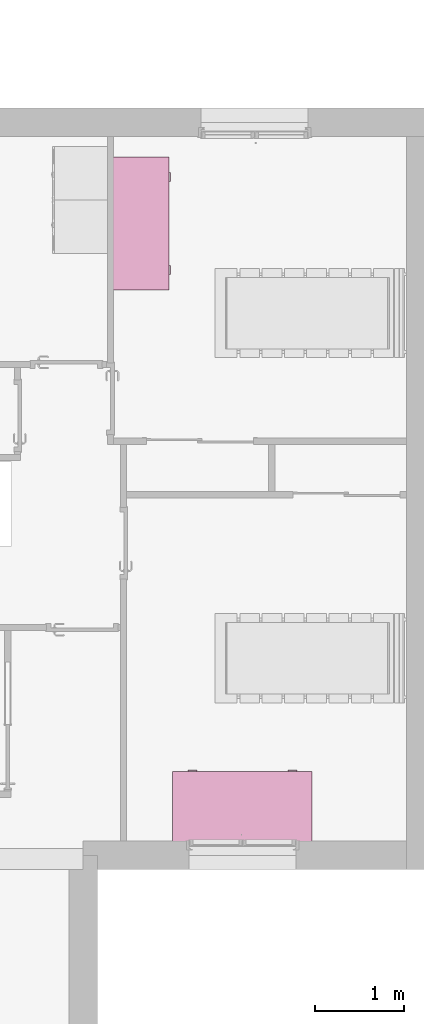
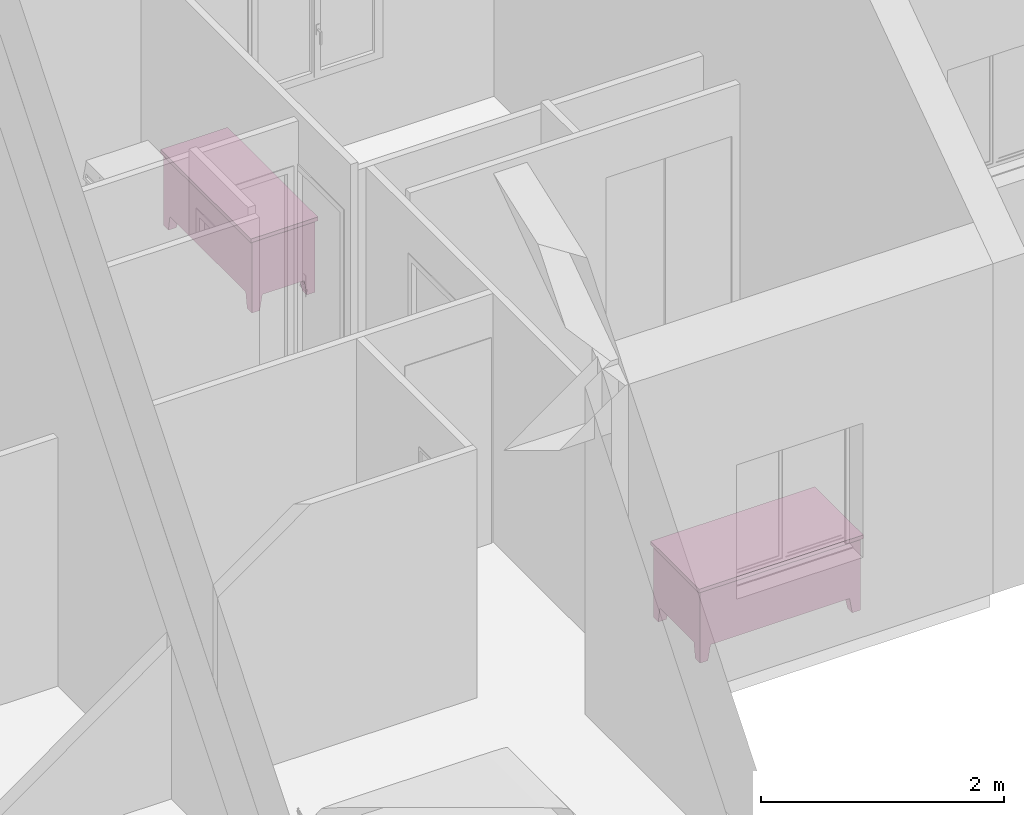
# One storey, part 61 of 61: 2 furnishings.
"""IFC2X3 building model written with IfcOpenShell, lengths in metres."""

from ifc_helpers import new_model, entity, si_unit, converted_unit, derived_unit, direction, frame, origin, place, context, subcontext, project, spatial, faceted_brep, source, transform, mapped, material, material_list, type_object, type_shapes, element, save


model = new_model("IFC2X3")

# Units and contexts
model_context = context("Model", 3, precision=1e-05, world=origin(), true_north=direction((6.12303176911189e-17, 1.0)))
body_context = subcontext(model_context, "Body", "Model", "MODEL_VIEW")
ifc_project = project(units=[si_unit("LENGTHUNIT", "METRE"), si_unit("AREAUNIT", "SQUARE_METRE"), si_unit("VOLUMEUNIT", "CUBIC_METRE"), converted_unit("PLANEANGLEUNIT", "DEGREE", entity("IfcRatioMeasure", 0.0174532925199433), si_unit("PLANEANGLEUNIT", "RADIAN"), dimensions=[0, 0, 0, 0, 0, 0, 0]), si_unit("MASSUNIT", "GRAM", prefix="KILO"), derived_unit("MASSDENSITYUNIT", [(si_unit("MASSUNIT", "GRAM", prefix="KILO"), 1), (si_unit("LENGTHUNIT", "METRE"), -3)]), si_unit("TIMEUNIT", "SECOND"), si_unit("FREQUENCYUNIT", "HERTZ"), si_unit("THERMODYNAMICTEMPERATUREUNIT", "DEGREE_CELSIUS"), derived_unit("THERMALTRANSMITTANCEUNIT", [(si_unit("MASSUNIT", "GRAM", prefix="KILO"), 1), (si_unit("THERMODYNAMICTEMPERATUREUNIT", "KELVIN"), -1), (si_unit("TIMEUNIT", "SECOND"), -3)]), derived_unit("VOLUMETRICFLOWRATEUNIT", [(si_unit("LENGTHUNIT", "METRE"), 3), (si_unit("TIMEUNIT", "SECOND"), -1)]), si_unit("ELECTRICCURRENTUNIT", "AMPERE"), si_unit("ELECTRICVOLTAGEUNIT", "VOLT"), si_unit("POWERUNIT", "WATT"), si_unit("FORCEUNIT", "NEWTON", prefix="KILO"), si_unit("ILLUMINANCEUNIT", "LUX"), si_unit("LUMINOUSFLUXUNIT", "LUMEN"), si_unit("LUMINOUSINTENSITYUNIT", "CANDELA"), derived_unit("USERDEFINED", [(si_unit("MASSUNIT", "GRAM", prefix="KILO"), -1), (si_unit("LENGTHUNIT", "METRE"), -2), (si_unit("TIMEUNIT", "SECOND"), 3), (si_unit("LUMINOUSFLUXUNIT", "LUMEN"), 1)]), derived_unit("LINEARVELOCITYUNIT", [(si_unit("LENGTHUNIT", "METRE"), 1), (si_unit("TIMEUNIT", "SECOND"), -1)]), si_unit("PRESSUREUNIT", "PASCAL"), derived_unit("USERDEFINED", [(si_unit("LENGTHUNIT", "METRE"), -2), (si_unit("MASSUNIT", "GRAM", prefix="KILO"), 1), (si_unit("TIMEUNIT", "SECOND"), -2)])], contexts=[model_context])

# Site, building, storey
site_placement = place(None, origin())
site = spatial("IfcSite", under=ifc_project, at=site_placement, Name="Surface", CompositionType="ELEMENT")
building_placement = place(site_placement, origin())
building = spatial("IfcBuilding", under=site, at=building_placement, CompositionType="ELEMENT")
storey_placement = place(building_placement, frame((0.0, 0.0, 2.82)))
storey = spatial("IfcBuildingStorey", under=building, at=storey_placement, Name="ETAGE", CompositionType="ELEMENT", Elevation=2.82)

# Furnishings
ifc_material_1 = material(Name="Bois - Mélaminé ivoire")
ifc_material_2 = material(Name="Métal - Chrome")
ifc_material_3 = material(Name="Bois - Cerisier")
ifc_material_list_1 = material_list([ifc_material_1, ifc_material_2, ifc_material_3])
ifc_material_list_2 = material_list([ifc_material_1, ifc_material_2, ifc_material_3])
furniture_type_1 = type_object("IfcFurnitureType", Name="1525 mm x 762 mm", material=ifc_material_list_2)
shared_shape_1 = source(origin(), body_context, "Body", "Brep", [
    faceted_brep([(1.13765, 0.761999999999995, 0.70485), (1.13765, 0.761999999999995, 0.60325), (1.50595, 0.761999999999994, 0.60325), (1.50595, 0.761999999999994, 0.70485), (1.13765, 0.774699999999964, 0.70485), (1.13765, 0.774699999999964, 0.60325), (1.50595, 0.774699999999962, 0.60325), (1.50595, 0.774699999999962, 0.70485)], [[[0, 1, 2, 3]], [[1, 0, 4, 5]], [[2, 1, 5, 6]], [[3, 2, 6, 7]], [[0, 3, 7, 4]], [[4, 7, 6, 5]]]),
    faceted_brep([(1.50595, 0.774699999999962, 0.5842), (1.50595, 0.774699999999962, 0.17105), (1.13765, 0.774699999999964, 0.17105), (1.13765, 0.774699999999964, 0.5842), (1.13765, 0.761999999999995, 0.5842), (1.50595, 0.761999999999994, 0.5842), (1.13765, 0.761999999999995, 0.17105), (1.50595, 0.761999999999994, 0.17105)], [[[0, 1, 2, 3]], [[4, 5, 0, 3]], [[6, 4, 3, 2]], [[7, 6, 2, 1]], [[5, 7, 1, 0]], [[5, 4, 6, 7]]]),
    faceted_brep([(0.38735, 0.761999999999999, 0.70485), (0.01905, 0.761999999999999, 0.70485), (0.01905, 0.761999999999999, 0.60285), (0.38735, 0.761999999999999, 0.60285), (0.38735, 0.774700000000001, 0.70485), (0.01905, 0.774700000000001, 0.70485), (0.01905, 0.774700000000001, 0.60285), (0.38735, 0.774700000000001, 0.60285)], [[[0, 1, 2, 3]], [[1, 0, 4, 5]], [[2, 1, 5, 6]], [[3, 2, 6, 7]], [[0, 3, 7, 4]], [[4, 7, 6, 5]]]),
    faceted_brep([(0.01905, 0.774700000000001, 0.5838), (0.38735, 0.774700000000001, 0.5838), (0.38735, 0.774700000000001, 0.4822), (0.01905, 0.774700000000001, 0.4822), (0.01905, 0.761999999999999, 0.4822), (0.01905, 0.761999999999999, 0.5838), (0.38735, 0.761999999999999, 0.4822), (0.38735, 0.761999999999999, 0.5838)], [[[0, 1, 2, 3]], [[4, 5, 0, 3]], [[6, 4, 3, 2]], [[7, 6, 2, 1]], [[5, 7, 1, 0]], [[5, 4, 6, 7]]]),
    faceted_brep([(0.01905, 0.761999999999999, 0.17105), (0.01905, 0.761999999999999, 0.3425), (0.01905, 0.774700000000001, 0.3425), (0.01905, 0.774700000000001, 0.17105), (0.38735, 0.761999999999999, 0.17105), (0.38735, 0.774700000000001, 0.17105), (0.38735, 0.761999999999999, 0.3425), (0.38735, 0.774700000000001, 0.3425)], [[[0, 1, 2, 3]], [[4, 0, 3, 5]], [[6, 4, 5, 7]], [[1, 6, 7, 2]], [[2, 7, 5, 3]], [[1, 0, 4, 6]]]),
    faceted_brep([(0.01905, 0.761999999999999, 0.36155), (0.01905, 0.761999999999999, 0.46315), (0.01905, 0.774700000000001, 0.46315), (0.01905, 0.774700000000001, 0.36155), (0.38735, 0.761999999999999, 0.36155), (0.38735, 0.774700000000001, 0.36155), (0.38735, 0.761999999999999, 0.46315), (0.38735, 0.774700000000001, 0.46315)], [[[0, 1, 2, 3]], [[4, 0, 3, 5]], [[6, 4, 5, 7]], [[1, 6, 7, 2]], [[2, 7, 5, 3]], [[1, 0, 4, 6]]]),
    faceted_brep([(1.42339999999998, 0.761999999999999, 0.152), (1.42339999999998, 0.660399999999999, 0.152), (1.52499999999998, 0.660399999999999, 0.152), (1.52499999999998, 0.761999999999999, 0.152), (1.44879999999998, 0.762, 0.0), (1.52499999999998, 0.762, 0.0), (1.52499999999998, 0.6858, 0.0), (1.44879999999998, 0.6858, 0.0)], [[[0, 1, 2, 3]], [[4, 5, 6, 7]], [[4, 7, 1, 0]], [[7, 6, 2, 1]], [[6, 5, 3, 2]], [[5, 4, 0, 3]]]),
    faceted_brep([(1.4234, 0.0, 0.152), (1.525, 0.0, 0.152), (1.525, 0.1016, 0.152), (1.4234, 0.1016, 0.152), (1.4488, 0.0, 0.0), (1.4488, 0.0761999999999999, 0.0), (1.525, 0.0761999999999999, 0.0), (1.525, 0.0, 0.0)], [[[0, 1, 2, 3]], [[4, 5, 6, 7]], [[4, 7, 1, 0]], [[7, 6, 2, 1]], [[6, 5, 3, 2]], [[5, 4, 0, 3]]]),
    faceted_brep([(0.1016, 0.0, 0.152), (0.1016, 0.1016, 0.152), (0.0, 0.1016, 0.152), (0.0, 0.0, 0.152), (0.0762, 0.0, 0.0), (0.0, 0.0, 0.0), (0.0, 0.0761999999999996, 0.0), (0.0762, 0.0761999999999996, 0.0)], [[[0, 1, 2, 3]], [[4, 5, 6, 7]], [[4, 7, 1, 0]], [[7, 6, 2, 1]], [[6, 5, 3, 2]], [[5, 4, 0, 3]]]),
    faceted_brep([(0.1016, 0.762000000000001, 0.152), (0.0, 0.762000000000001, 0.152), (0.0, 0.660400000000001, 0.152), (0.1016, 0.660400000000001, 0.152), (0.0761999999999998, 0.762000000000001, 0.0), (0.0761999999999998, 0.685800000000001, 0.0), (0.0, 0.685800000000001, 0.0), (0.0, 0.762000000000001, 0.0)], [[[0, 1, 2, 3]], [[4, 5, 6, 7]], [[4, 7, 1, 0]], [[7, 6, 2, 1]], [[6, 5, 3, 2]], [[5, 4, 0, 3]]]),
    faceted_brep([(0.4064, 0.761999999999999, 0.723900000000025), (0.0, 0.761999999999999, 0.723900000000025), (0.0, 0.0, 0.723900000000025), (1.525, 0.0, 0.723900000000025), (1.525, 0.761999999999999, 0.723900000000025), (1.11860000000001, 0.761999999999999, 0.723900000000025), (1.11860000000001, 0.0508000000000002, 0.723900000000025), (0.4064, 0.0508000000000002, 0.723900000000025), (0.4064, 0.761999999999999, 0.152), (0.4064, 0.0508000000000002, 0.152), (1.11860000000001, 0.0508000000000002, 0.152), (1.11860000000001, 0.761999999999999, 0.152), (1.525, 0.761999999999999, 0.152), (1.525, 0.0, 0.152), (0.0, 0.0, 0.152), (0.0, 0.761999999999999, 0.152)], [[[0, 1, 2, 3, 4, 5, 6, 7]], [[8, 9, 10, 11, 12, 13, 14, 15]], [[1, 0, 8, 15]], [[2, 1, 15, 14]], [[3, 2, 14, 13]], [[4, 3, 13, 12]], [[5, 4, 12, 11]], [[6, 5, 11, 10]], [[7, 6, 10, 9]], [[0, 7, 9, 8]]]),
    faceted_brep([(1.54405000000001, 0.781049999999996, 0.761999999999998), (-0.0190499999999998, 0.781049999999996, 0.761999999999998), (-0.0190499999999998, -0.0190500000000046, 0.761999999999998), (1.54405000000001, -0.0190500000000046, 0.761999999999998), (1.54405000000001, 0.781049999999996, 0.723900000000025), (1.54405000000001, -0.0190500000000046, 0.723900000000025), (-0.0190499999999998, -0.0190500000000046, 0.723900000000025), (-0.0190499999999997, 0.781049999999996, 0.723900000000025)], [[[0, 1, 2, 3]], [[4, 5, 6, 7]], [[1, 0, 4, 7]], [[2, 1, 7, 6]], [[3, 2, 6, 5]], [[0, 3, 5, 4]]]),
    faceted_brep([(1.36624999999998, 0.774699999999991, 0.546100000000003), (1.36624999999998, 0.774699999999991, 0.533399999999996), (1.37259999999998, 0.774699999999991, 0.533399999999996), (1.37259999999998, 0.774699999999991, 0.546100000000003), (1.36624999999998, 0.793749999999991, 0.546100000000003), (1.36624999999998, 0.793749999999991, 0.533399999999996), (1.37259999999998, 0.80009999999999, 0.533399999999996), (1.37259999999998, 0.80009999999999, 0.546100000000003), (1.27734999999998, 0.793749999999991, 0.546100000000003), (1.27734999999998, 0.793749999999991, 0.533399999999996), (1.27099999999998, 0.80009999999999, 0.533399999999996), (1.27099999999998, 0.80009999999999, 0.546100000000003), (1.27734999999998, 0.774699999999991, 0.546100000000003), (1.27734999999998, 0.774699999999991, 0.533399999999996), (1.27099999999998, 0.774699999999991, 0.533399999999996), (1.27099999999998, 0.774699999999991, 0.546100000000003)], [[[0, 1, 2, 3]], [[1, 0, 4, 5]], [[2, 1, 5, 6]], [[3, 2, 6, 7]], [[0, 3, 7, 4]], [[5, 4, 8, 9]], [[6, 5, 9, 10]], [[7, 6, 10, 11]], [[4, 7, 11, 8]], [[9, 8, 12, 13]], [[10, 9, 13, 14]], [[11, 10, 14, 15]], [[8, 11, 15, 12]], [[12, 15, 14, 13]]]),
    faceted_brep([(1.36624999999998, 0.774699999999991, 0.654050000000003), (1.36624999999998, 0.774699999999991, 0.666750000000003), (1.36624999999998, 0.79374999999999, 0.666750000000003), (1.36624999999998, 0.79374999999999, 0.654050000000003), (1.37259999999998, 0.774699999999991, 0.654050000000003), (1.37259999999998, 0.800099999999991, 0.654050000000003), (1.37259999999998, 0.774699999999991, 0.666750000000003), (1.37259999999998, 0.800099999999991, 0.666750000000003), (1.27734999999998, 0.79374999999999, 0.666750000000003), (1.27734999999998, 0.79374999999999, 0.654050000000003), (1.27099999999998, 0.800099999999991, 0.654050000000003), (1.27099999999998, 0.800099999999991, 0.666750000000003), (1.27734999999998, 0.774699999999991, 0.666750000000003), (1.27099999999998, 0.774699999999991, 0.666750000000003), (1.27099999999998, 0.774699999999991, 0.654050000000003), (1.27734999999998, 0.774699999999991, 0.654050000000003)], [[[0, 1, 2, 3]], [[4, 0, 3, 5]], [[6, 4, 5, 7]], [[1, 6, 7, 2]], [[3, 2, 8, 9]], [[5, 3, 9, 10]], [[7, 5, 10, 11]], [[2, 7, 11, 8]], [[12, 13, 14, 15]], [[9, 8, 12, 15]], [[10, 9, 15, 14]], [[11, 10, 14, 13]], [[8, 11, 13, 12]], [[1, 0, 4, 6]]]),
    faceted_brep([(0.15875, 0.774699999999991, 0.3048), (0.1524, 0.774699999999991, 0.3048), (0.1524, 0.774699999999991, 0.2921), (0.15875, 0.774699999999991, 0.2921), (0.15875, 0.793749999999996, 0.3048), (0.1524, 0.800099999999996, 0.3048), (0.1524, 0.800099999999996, 0.2921), (0.15875, 0.793749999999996, 0.2921), (0.24765, 0.793749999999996, 0.3048), (0.254, 0.800099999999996, 0.3048), (0.254, 0.800099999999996, 0.2921), (0.24765, 0.793749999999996, 0.2921), (0.24765, 0.774699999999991, 0.3048), (0.254, 0.774699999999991, 0.3048), (0.254, 0.774699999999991, 0.2921), (0.24765, 0.774699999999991, 0.2921)], [[[0, 1, 2, 3]], [[1, 0, 4, 5]], [[2, 1, 5, 6]], [[3, 2, 6, 7]], [[0, 3, 7, 4]], [[5, 4, 8, 9]], [[6, 5, 9, 10]], [[7, 6, 10, 11]], [[4, 7, 11, 8]], [[9, 8, 12, 13]], [[10, 9, 13, 14]], [[11, 10, 14, 15]], [[8, 11, 15, 12]], [[12, 15, 14, 13]]]),
    faceted_brep([(0.1524, 0.774699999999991, 0.425450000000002), (0.15875, 0.774699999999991, 0.425450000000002), (0.15875, 0.793749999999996, 0.425450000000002), (0.1524, 0.800099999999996, 0.425450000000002), (0.1524, 0.774699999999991, 0.412750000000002), (0.1524, 0.800099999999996, 0.412750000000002), (0.15875, 0.774699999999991, 0.412750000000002), (0.15875, 0.793749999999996, 0.412750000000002), (0.24765, 0.793749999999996, 0.425450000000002), (0.254, 0.800099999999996, 0.425450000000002), (0.254, 0.800099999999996, 0.412750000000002), (0.24765, 0.793749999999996, 0.412750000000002), (0.24765, 0.774699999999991, 0.425450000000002), (0.254, 0.774699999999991, 0.425450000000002), (0.254, 0.774699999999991, 0.412750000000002), (0.24765, 0.774699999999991, 0.412750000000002)], [[[0, 1, 2, 3]], [[4, 0, 3, 5]], [[6, 4, 5, 7]], [[1, 6, 7, 2]], [[3, 2, 8, 9]], [[5, 3, 9, 10]], [[7, 5, 10, 11]], [[2, 7, 11, 8]], [[9, 8, 12, 13]], [[10, 9, 13, 14]], [[11, 10, 14, 15]], [[8, 11, 15, 12]], [[12, 15, 14, 13]], [[1, 0, 4, 6]]]),
    faceted_brep([(0.1524, 0.774699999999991, 0.5461), (0.15875, 0.774699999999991, 0.5461), (0.15875, 0.793749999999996, 0.5461), (0.1524, 0.800099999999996, 0.5461), (0.1524, 0.774699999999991, 0.5334), (0.1524, 0.800099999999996, 0.5334), (0.15875, 0.774699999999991, 0.5334), (0.15875, 0.793749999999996, 0.5334), (0.24765, 0.793749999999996, 0.5461), (0.254, 0.800099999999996, 0.5461), (0.254, 0.800099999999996, 0.5334), (0.24765, 0.793749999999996, 0.5334), (0.24765, 0.774699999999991, 0.5461), (0.254, 0.774699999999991, 0.5461), (0.254, 0.774699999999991, 0.5334), (0.24765, 0.774699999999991, 0.5334)], [[[0, 1, 2, 3]], [[4, 0, 3, 5]], [[6, 4, 5, 7]], [[1, 6, 7, 2]], [[3, 2, 8, 9]], [[5, 3, 9, 10]], [[7, 5, 10, 11]], [[2, 7, 11, 8]], [[9, 8, 12, 13]], [[10, 9, 13, 14]], [[11, 10, 14, 15]], [[8, 11, 15, 12]], [[12, 15, 14, 13]], [[1, 0, 4, 6]]]),
    faceted_brep([(0.1524, 0.774699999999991, 0.666750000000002), (0.15875, 0.774699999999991, 0.666750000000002), (0.15875, 0.793749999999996, 0.666750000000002), (0.1524, 0.800099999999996, 0.666750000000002), (0.1524, 0.774699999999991, 0.654050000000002), (0.1524, 0.800099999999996, 0.654050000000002), (0.15875, 0.774699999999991, 0.654050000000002), (0.15875, 0.793749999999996, 0.654050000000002), (0.24765, 0.793749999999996, 0.666750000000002), (0.254, 0.800099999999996, 0.666750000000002), (0.254, 0.800099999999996, 0.654050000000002), (0.24765, 0.793749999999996, 0.654050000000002), (0.24765, 0.774699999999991, 0.666750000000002), (0.24765, 0.774699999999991, 0.654050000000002), (0.254, 0.774699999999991, 0.654050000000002), (0.254, 0.774699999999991, 0.666750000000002)], [[[0, 1, 2, 3]], [[4, 0, 3, 5]], [[6, 4, 5, 7]], [[1, 6, 7, 2]], [[3, 2, 8, 9]], [[5, 3, 9, 10]], [[7, 5, 10, 11]], [[2, 7, 11, 8]], [[12, 13, 14, 15]], [[9, 8, 12, 15]], [[10, 9, 15, 14]], [[11, 10, 14, 13]], [[8, 11, 13, 12]], [[1, 0, 4, 6]]]),
])
type_shapes(furniture_type_1, [shared_shape_1])
furnishing_1_placement = place(storey_placement, frame((73.3596263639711, 80.2077566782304, 0.0199999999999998)))
element("IfcFurnishingElement", 1, at=furnishing_1_placement, inside=storey, type_object=furniture_type_1, material=ifc_material_list_1, Name="Bureau commun:1525 mm x 762 mm", ObjectType="Bureau commun:1525 mm x 762 mm", context=body_context, shape_type="MappedRepresentation", body=[
    mapped(shared_shape_1, transform((0.0, 0.0, 0.0), scale=1.0)),
])
ifc_material_list_3 = material_list([ifc_material_1, ifc_material_2, ifc_material_3])
ifc_material_list_4 = material_list([ifc_material_1, ifc_material_2, ifc_material_3])
furniture_type_2 = type_object("IfcFurnitureType", Name="1525 mm x 600 mm", material=ifc_material_list_4)
shared_shape_2 = source(origin(), body_context, "Body", "Brep", [
    faceted_brep([(1.06265, -0.599999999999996, 0.704850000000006), (1.43095, -0.599999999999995, 0.704850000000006), (1.43095, -0.599999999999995, 0.603250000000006), (1.06265, -0.599999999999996, 0.603250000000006), (1.06265, -0.612699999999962, 0.603250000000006), (1.06265, -0.612699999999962, 0.704850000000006), (1.43095, -0.612699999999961, 0.603250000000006), (1.43095, -0.612699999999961, 0.704850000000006)], [[[0, 1, 2, 3]], [[3, 4, 5, 0]], [[2, 6, 4, 3]], [[1, 7, 6, 2]], [[0, 5, 7, 1]], [[5, 4, 6, 7]]]),
    faceted_brep([(1.43095, -0.612699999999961, 0.584200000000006), (1.06265, -0.612699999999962, 0.584200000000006), (1.06265, -0.612699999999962, 0.17105), (1.43095, -0.612699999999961, 0.17105), (1.06265, -0.599999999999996, 0.584200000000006), (1.43095, -0.599999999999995, 0.584200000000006), (1.06265, -0.599999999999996, 0.17105), (1.43095, -0.599999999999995, 0.17105)], [[[0, 1, 2, 3]], [[4, 1, 0, 5]], [[6, 2, 1, 4]], [[7, 3, 2, 6]], [[5, 0, 3, 7]], [[5, 7, 6, 4]]]),
    faceted_brep([(0.38735, -0.6, 0.70485), (0.38735, -0.6, 0.60285), (0.01905, -0.6, 0.60285), (0.01905, -0.6, 0.70485), (0.01905, -0.612700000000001, 0.70485), (0.38735, -0.612700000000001, 0.70485), (0.01905, -0.612700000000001, 0.60285), (0.38735, -0.612700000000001, 0.60285)], [[[0, 1, 2, 3]], [[3, 4, 5, 0]], [[2, 6, 4, 3]], [[1, 7, 6, 2]], [[0, 5, 7, 1]], [[5, 4, 6, 7]]]),
    faceted_brep([(0.01905, -0.612700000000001, 0.5838), (0.01905, -0.612700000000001, 0.4822), (0.38735, -0.612700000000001, 0.4822), (0.38735, -0.612700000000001, 0.5838), (0.01905, -0.6, 0.4822), (0.01905, -0.6, 0.5838), (0.38735, -0.6, 0.4822), (0.38735, -0.6, 0.5838)], [[[0, 1, 2, 3]], [[4, 1, 0, 5]], [[6, 2, 1, 4]], [[7, 3, 2, 6]], [[5, 0, 3, 7]], [[5, 7, 6, 4]]]),
    faceted_brep([(0.01905, -0.6, 0.17105), (0.01905, -0.612700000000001, 0.17105), (0.01905, -0.612700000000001, 0.3425), (0.01905, -0.6, 0.3425), (0.38735, -0.6, 0.17105), (0.38735, -0.612700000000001, 0.17105), (0.38735, -0.6, 0.3425), (0.38735, -0.612700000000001, 0.3425)], [[[0, 1, 2, 3]], [[4, 5, 1, 0]], [[6, 7, 5, 4]], [[3, 2, 7, 6]], [[2, 1, 5, 7]], [[3, 6, 4, 0]]]),
    faceted_brep([(0.01905, -0.6, 0.36155), (0.01905, -0.612700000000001, 0.36155), (0.01905, -0.612700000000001, 0.46315), (0.01905, -0.6, 0.46315), (0.38735, -0.6, 0.36155), (0.38735, -0.612700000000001, 0.36155), (0.38735, -0.6, 0.46315), (0.38735, -0.612700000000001, 0.46315)], [[[0, 1, 2, 3]], [[4, 5, 1, 0]], [[6, 7, 5, 4]], [[3, 2, 7, 6]], [[2, 1, 5, 7]], [[3, 6, 4, 0]]]),
    faceted_brep([(1.34839999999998, -0.6, 0.152), (1.44999999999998, -0.6, 0.152), (1.44999999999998, -0.498399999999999, 0.152), (1.34839999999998, -0.498399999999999, 0.152), (1.37379999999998, -0.6, 0.0), (1.37379999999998, -0.5238, 0.0), (1.44999999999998, -0.5238, 0.0), (1.44999999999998, -0.6, 0.0)], [[[0, 1, 2, 3]], [[4, 5, 6, 7]], [[4, 0, 3, 5]], [[5, 3, 2, 6]], [[6, 2, 1, 7]], [[7, 1, 0, 4]]]),
    faceted_brep([(1.3484, 0.0, 0.152), (1.3484, -0.1016, 0.152), (1.45, -0.1016, 0.152), (1.45, 0.0, 0.152), (1.3738, 0.0, 0.0), (1.45, 0.0, 0.0), (1.45, -0.0761999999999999, 0.0), (1.3738, -0.0761999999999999, 0.0)], [[[0, 1, 2, 3]], [[4, 5, 6, 7]], [[4, 0, 3, 5]], [[5, 3, 2, 6]], [[6, 2, 1, 7]], [[7, 1, 0, 4]]]),
    faceted_brep([(0.1016, 0.0, 0.152), (0.0, 0.0, 0.152), (0.0, -0.1016, 0.152), (0.1016, -0.1016, 0.152), (0.0762, 0.0, 0.0), (0.0762, -0.0761999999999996, 0.0), (0.0, -0.0761999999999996, 0.0), (0.0, 0.0, 0.0)], [[[0, 1, 2, 3]], [[4, 5, 6, 7]], [[4, 0, 3, 5]], [[5, 3, 2, 6]], [[6, 2, 1, 7]], [[7, 1, 0, 4]]]),
    faceted_brep([(0.1016, -0.600000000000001, 0.152), (0.1016, -0.498400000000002, 0.152), (0.0, -0.498400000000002, 0.152), (0.0, -0.600000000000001, 0.152), (0.0761999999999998, -0.600000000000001, 0.0), (0.0, -0.600000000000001, 0.0), (0.0, -0.523800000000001, 0.0), (0.0761999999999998, -0.523800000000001, 0.0)], [[[0, 1, 2, 3]], [[4, 5, 6, 7]], [[4, 0, 3, 5]], [[5, 3, 2, 6]], [[6, 2, 1, 7]], [[7, 1, 0, 4]]]),
    faceted_brep([(0.4064, -0.6, 0.723900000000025), (0.4064, -0.0508000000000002, 0.723900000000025), (1.04360000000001, -0.0508000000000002, 0.723900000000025), (1.04360000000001, -0.6, 0.723900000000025), (1.45, -0.6, 0.723900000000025), (1.45, 0.0, 0.723900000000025), (0.0, 0.0, 0.723900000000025), (0.0, -0.6, 0.723900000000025), (0.4064, -0.6, 0.152), (0.0, -0.6, 0.152), (0.0, 0.0, 0.152), (1.45, 0.0, 0.152), (1.45, -0.6, 0.152), (1.04360000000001, -0.6, 0.152), (1.04360000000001, -0.0508000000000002, 0.152), (0.4064, -0.0508000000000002, 0.152)], [[[0, 1, 2, 3, 4, 5, 6, 7]], [[8, 9, 10, 11, 12, 13, 14, 15]], [[7, 9, 8, 0]], [[6, 10, 9, 7]], [[5, 11, 10, 6]], [[4, 12, 11, 5]], [[3, 13, 12, 4]], [[2, 14, 13, 3]], [[1, 15, 14, 2]], [[0, 8, 15, 1]]]),
    faceted_brep([(1.46905000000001, -0.619049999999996, 0.761999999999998), (1.46905000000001, 0.0190500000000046, 0.761999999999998), (-0.0190499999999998, 0.0190500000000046, 0.761999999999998), (-0.0190499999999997, -0.619049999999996, 0.761999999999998), (1.46905000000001, -0.619049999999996, 0.723900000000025), (-0.0190499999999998, -0.619049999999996, 0.723900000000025), (-0.0190499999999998, 0.0190500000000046, 0.723900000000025), (1.46905000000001, 0.0190500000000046, 0.723900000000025)], [[[0, 1, 2, 3]], [[4, 5, 6, 7]], [[3, 5, 4, 0]], [[2, 6, 5, 3]], [[1, 7, 6, 2]], [[0, 4, 7, 1]]]),
    faceted_brep([(1.29124999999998, -0.612699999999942, 0.546100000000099), (1.29759999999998, -0.612699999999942, 0.546100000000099), (1.29759999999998, -0.612699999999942, 0.533400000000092), (1.29124999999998, -0.612699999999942, 0.533400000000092), (1.29124999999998, -0.631749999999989, 0.533400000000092), (1.29124999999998, -0.631749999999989, 0.546100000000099), (1.29759999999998, -0.638099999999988, 0.533400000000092), (1.29759999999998, -0.638099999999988, 0.546100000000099), (1.20234999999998, -0.631749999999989, 0.533400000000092), (1.20234999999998, -0.631749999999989, 0.546100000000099), (1.19599999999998, -0.638099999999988, 0.533400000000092), (1.19599999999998, -0.638099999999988, 0.546100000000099), (1.20234999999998, -0.612699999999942, 0.533400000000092), (1.20234999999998, -0.612699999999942, 0.546100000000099), (1.19599999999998, -0.612699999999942, 0.533400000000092), (1.19599999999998, -0.612699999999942, 0.546100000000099)], [[[0, 1, 2, 3]], [[3, 4, 5, 0]], [[2, 6, 4, 3]], [[1, 7, 6, 2]], [[0, 5, 7, 1]], [[4, 8, 9, 5]], [[6, 10, 8, 4]], [[7, 11, 10, 6]], [[5, 9, 11, 7]], [[8, 12, 13, 9]], [[10, 14, 12, 8]], [[11, 15, 14, 10]], [[9, 13, 15, 11]], [[13, 12, 14, 15]]]),
    faceted_brep([(1.29124999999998, -0.612699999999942, 0.654050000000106), (1.29124999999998, -0.631749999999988, 0.654050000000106), (1.29124999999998, -0.631749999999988, 0.666750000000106), (1.29124999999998, -0.612699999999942, 0.666750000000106), (1.29759999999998, -0.612699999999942, 0.654050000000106), (1.29759999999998, -0.638099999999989, 0.654050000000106), (1.29759999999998, -0.612699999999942, 0.666750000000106), (1.29759999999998, -0.638099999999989, 0.666750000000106), (1.20234999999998, -0.631749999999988, 0.654050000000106), (1.20234999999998, -0.631749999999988, 0.666750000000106), (1.19599999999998, -0.638099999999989, 0.654050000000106), (1.19599999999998, -0.638099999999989, 0.666750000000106), (1.20234999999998, -0.612699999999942, 0.666750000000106), (1.20234999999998, -0.612699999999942, 0.654050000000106), (1.19599999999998, -0.612699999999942, 0.654050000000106), (1.19599999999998, -0.612699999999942, 0.666750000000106)], [[[0, 1, 2, 3]], [[4, 5, 1, 0]], [[6, 7, 5, 4]], [[3, 2, 7, 6]], [[1, 8, 9, 2]], [[5, 10, 8, 1]], [[7, 11, 10, 5]], [[2, 9, 11, 7]], [[12, 13, 14, 15]], [[8, 13, 12, 9]], [[10, 14, 13, 8]], [[11, 15, 14, 10]], [[9, 12, 15, 11]], [[3, 6, 4, 0]]]),
    faceted_brep([(0.15875, -0.612699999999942, 0.3048), (0.15875, -0.612699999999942, 0.2921), (0.1524, -0.612699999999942, 0.2921), (0.1524, -0.612699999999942, 0.3048), (0.1524, -0.638099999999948, 0.3048), (0.15875, -0.631749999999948, 0.3048), (0.1524, -0.638099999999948, 0.2921), (0.15875, -0.631749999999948, 0.2921), (0.254, -0.638099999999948, 0.3048), (0.24765, -0.631749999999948, 0.3048), (0.254, -0.638099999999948, 0.2921), (0.24765, -0.631749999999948, 0.2921), (0.254, -0.612699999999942, 0.3048), (0.24765, -0.612699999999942, 0.3048), (0.254, -0.612699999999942, 0.2921), (0.24765, -0.612699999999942, 0.2921)], [[[0, 1, 2, 3]], [[3, 4, 5, 0]], [[2, 6, 4, 3]], [[1, 7, 6, 2]], [[0, 5, 7, 1]], [[4, 8, 9, 5]], [[6, 10, 8, 4]], [[7, 11, 10, 6]], [[5, 9, 11, 7]], [[8, 12, 13, 9]], [[10, 14, 12, 8]], [[11, 15, 14, 10]], [[9, 13, 15, 11]], [[13, 12, 14, 15]]]),
    faceted_brep([(0.1524, -0.612699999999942, 0.425450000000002), (0.1524, -0.638099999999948, 0.425450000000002), (0.15875, -0.631749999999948, 0.425450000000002), (0.15875, -0.612699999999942, 0.425450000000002), (0.1524, -0.612699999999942, 0.412750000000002), (0.1524, -0.638099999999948, 0.412750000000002), (0.15875, -0.612699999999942, 0.412750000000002), (0.15875, -0.631749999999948, 0.412750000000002), (0.254, -0.638099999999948, 0.425450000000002), (0.24765, -0.631749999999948, 0.425450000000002), (0.254, -0.638099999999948, 0.412750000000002), (0.24765, -0.631749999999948, 0.412750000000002), (0.254, -0.612699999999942, 0.425450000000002), (0.24765, -0.612699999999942, 0.425450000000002), (0.254, -0.612699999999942, 0.412750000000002), (0.24765, -0.612699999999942, 0.412750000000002)], [[[0, 1, 2, 3]], [[4, 5, 1, 0]], [[6, 7, 5, 4]], [[3, 2, 7, 6]], [[1, 8, 9, 2]], [[5, 10, 8, 1]], [[7, 11, 10, 5]], [[2, 9, 11, 7]], [[8, 12, 13, 9]], [[10, 14, 12, 8]], [[11, 15, 14, 10]], [[9, 13, 15, 11]], [[13, 12, 14, 15]], [[3, 6, 4, 0]]]),
    faceted_brep([(0.1524, -0.612699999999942, 0.5461), (0.1524, -0.638099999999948, 0.5461), (0.15875, -0.631749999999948, 0.5461), (0.15875, -0.612699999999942, 0.5461), (0.1524, -0.612699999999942, 0.5334), (0.1524, -0.638099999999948, 0.5334), (0.15875, -0.612699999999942, 0.5334), (0.15875, -0.631749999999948, 0.5334), (0.254, -0.638099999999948, 0.5461), (0.24765, -0.631749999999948, 0.5461), (0.254, -0.638099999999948, 0.5334), (0.24765, -0.631749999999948, 0.5334), (0.254, -0.612699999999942, 0.5461), (0.24765, -0.612699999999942, 0.5461), (0.254, -0.612699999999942, 0.5334), (0.24765, -0.612699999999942, 0.5334)], [[[0, 1, 2, 3]], [[4, 5, 1, 0]], [[6, 7, 5, 4]], [[3, 2, 7, 6]], [[1, 8, 9, 2]], [[5, 10, 8, 1]], [[7, 11, 10, 5]], [[2, 9, 11, 7]], [[8, 12, 13, 9]], [[10, 14, 12, 8]], [[11, 15, 14, 10]], [[9, 13, 15, 11]], [[13, 12, 14, 15]], [[3, 6, 4, 0]]]),
    faceted_brep([(0.1524, -0.612699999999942, 0.666750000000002), (0.1524, -0.638099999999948, 0.666750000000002), (0.15875, -0.631749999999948, 0.666750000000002), (0.15875, -0.612699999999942, 0.666750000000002), (0.1524, -0.612699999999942, 0.654050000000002), (0.1524, -0.638099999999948, 0.654050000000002), (0.15875, -0.612699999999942, 0.654050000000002), (0.15875, -0.631749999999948, 0.654050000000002), (0.254, -0.638099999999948, 0.666750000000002), (0.24765, -0.631749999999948, 0.666750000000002), (0.254, -0.638099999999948, 0.654050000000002), (0.24765, -0.631749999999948, 0.654050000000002), (0.24765, -0.612699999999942, 0.666750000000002), (0.254, -0.612699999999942, 0.666750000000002), (0.254, -0.612699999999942, 0.654050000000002), (0.24765, -0.612699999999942, 0.654050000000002)], [[[0, 1, 2, 3]], [[4, 5, 1, 0]], [[6, 7, 5, 4]], [[3, 2, 7, 6]], [[1, 8, 9, 2]], [[5, 10, 8, 1]], [[7, 11, 10, 5]], [[2, 9, 11, 7]], [[12, 13, 14, 15]], [[8, 13, 12, 9]], [[10, 14, 13, 8]], [[11, 15, 14, 10]], [[9, 12, 15, 11]], [[3, 6, 4, 0]]]),
])
type_shapes(furniture_type_2, [shared_shape_2])
furnishing_2_placement = place(storey_placement, frame((72.6767429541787, 86.4077566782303, 0.0199999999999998), z_axis=(0.0, 0.0, 1.0), x_axis=(0.0, 1.0, 0.0)))
element("IfcFurnishingElement", 2, at=furnishing_2_placement, inside=storey, type_object=furniture_type_2, material=ifc_material_list_3, Name="Bureau commun:1525 mm x 600 mm", ObjectType="Bureau commun:1525 mm x 600 mm", context=body_context, shape_type="MappedRepresentation", body=[
    mapped(shared_shape_2, transform((0.0, 0.0, 0.0), scale=1.0)),
])

save(model, "model.ifc")
